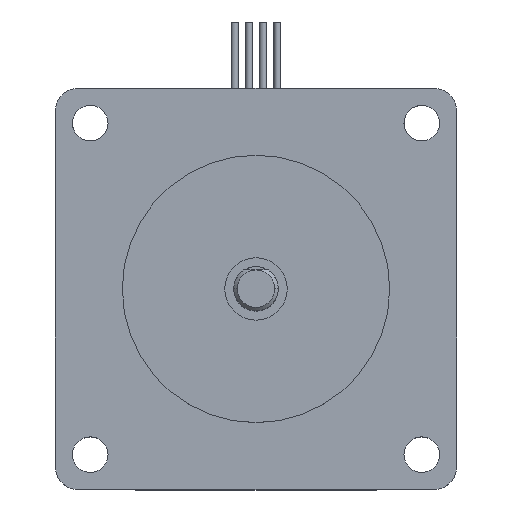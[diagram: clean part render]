
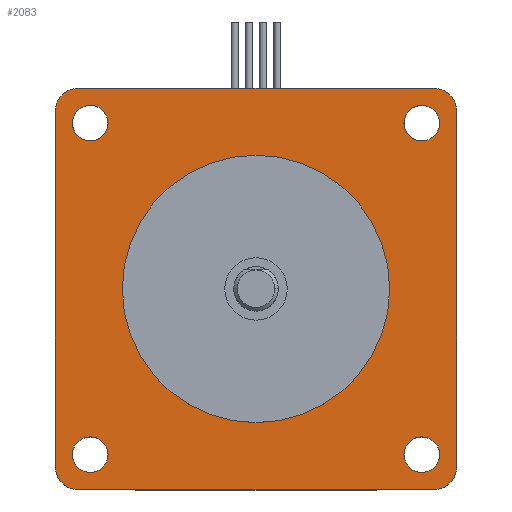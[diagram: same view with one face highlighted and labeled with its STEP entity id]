
A CAD part, top view. The second image highlights one B-rep face of the part: STEP entity #2083.
In plain terms, the highlighted planar face has unit normal (0, 0, 1).
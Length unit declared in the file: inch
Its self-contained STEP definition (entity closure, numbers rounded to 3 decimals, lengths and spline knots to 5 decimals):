
#99=CARTESIAN_POINT('',(-1.03,0.93,1.73));
#100=VERTEX_POINT('',#99);
#116=CARTESIAN_POINT('',(-0.83,0.93,1.73));
#117=VERTEX_POINT('',#116);
#124=CARTESIAN_POINT('',(-0.93,0.93,1.73));
#125=DIRECTION('',(0.0,0.0,-1.0));
#126=DIRECTION('',(-1.0,0.0,0.0));
#127=AXIS2_PLACEMENT_3D('',#124,#125,#126);
#128=CIRCLE('',#127,0.1);
#129=EDGE_CURVE('',#100,#117,#128,.T.);
#141=CARTESIAN_POINT('',(0.93,1.03,1.73));
#142=VERTEX_POINT('',#141);
#158=CARTESIAN_POINT('',(0.93,0.83,1.73));
#159=VERTEX_POINT('',#158);
#166=CARTESIAN_POINT('',(0.93,0.93,1.73));
#167=DIRECTION('',(0.0,0.0,-1.0));
#168=DIRECTION('',(0.0,1.0,0.0));
#169=AXIS2_PLACEMENT_3D('',#166,#167,#168);
#170=CIRCLE('',#169,0.1);
#171=EDGE_CURVE('',#142,#159,#170,.T.);
#183=CARTESIAN_POINT('',(-0.93,-1.03,1.73));
#184=VERTEX_POINT('',#183);
#200=CARTESIAN_POINT('',(-0.93,-0.83,1.73));
#201=VERTEX_POINT('',#200);
#208=CARTESIAN_POINT('',(-0.93,-0.93,1.73));
#209=DIRECTION('',(0.0,0.0,-1.0));
#210=DIRECTION('',(0.0,-1.0,0.0));
#211=AXIS2_PLACEMENT_3D('',#208,#209,#210);
#212=CIRCLE('',#211,0.1);
#213=EDGE_CURVE('',#184,#201,#212,.T.);
#225=CARTESIAN_POINT('',(1.03,-0.93,1.73));
#226=VERTEX_POINT('',#225);
#242=CARTESIAN_POINT('',(0.83,-0.93,1.73));
#243=VERTEX_POINT('',#242);
#250=CARTESIAN_POINT('',(0.93,-0.93,1.73));
#251=DIRECTION('',(0.0,0.0,-1.0));
#252=DIRECTION('',(1.0,0.0,0.0));
#253=AXIS2_PLACEMENT_3D('',#250,#251,#252);
#254=CIRCLE('',#253,0.1);
#255=EDGE_CURVE('',#226,#243,#254,.T.);
#265=CARTESIAN_POINT('',(-0.75,0.,1.73));
#266=VERTEX_POINT('',#265);
#275=CARTESIAN_POINT('',(0.75,0.,1.73));
#276=VERTEX_POINT('',#275);
#277=CARTESIAN_POINT('',(0.0,0.0,1.73));
#278=DIRECTION('',(0.0,0.0,-1.0));
#279=DIRECTION('',(-1.0,0.0,0.0));
#280=AXIS2_PLACEMENT_3D('',#277,#278,#279);
#281=CIRCLE('',#280,0.75);
#282=EDGE_CURVE('',#276,#266,#281,.T.);
#1358=CARTESIAN_POINT('',(1.0,-1.125,1.73));
#1359=VERTEX_POINT('',#1358);
#1366=CARTESIAN_POINT('',(-1.,-1.125,1.73));
#1367=VERTEX_POINT('',#1366);
#1368=CARTESIAN_POINT('',(-1.,-1.125,1.73));
#1369=DIRECTION('',(1.0,0.0,0.0));
#1370=VECTOR('',#1369,2.);
#1371=LINE('',#1368,#1370);
#1372=EDGE_CURVE('',#1367,#1359,#1371,.T.);
#1397=CARTESIAN_POINT('',(-1.125,-1.,1.73));
#1398=VERTEX_POINT('',#1397);
#1405=CARTESIAN_POINT('',(-1.125,1.0,1.73));
#1406=VERTEX_POINT('',#1405);
#1407=CARTESIAN_POINT('',(-1.125,1.0,1.73));
#1408=DIRECTION('',(0.0,-1.0,0.0));
#1409=VECTOR('',#1408,2.);
#1410=LINE('',#1407,#1409);
#1411=EDGE_CURVE('',#1406,#1398,#1410,.T.);
#1839=CARTESIAN_POINT('',(-1.,1.125,1.73));
#1840=VERTEX_POINT('',#1839);
#1841=CARTESIAN_POINT('',(-1.,1.0,1.73));
#1842=DIRECTION('',(0.0,0.0,1.0));
#1843=DIRECTION('',(0.0,1.0,0.0));
#1844=AXIS2_PLACEMENT_3D('',#1841,#1842,#1843);
#1845=CIRCLE('',#1844,0.125);
#1846=EDGE_CURVE('',#1840,#1406,#1845,.T.);
#1864=CARTESIAN_POINT('',(-1.,-1.,1.73));
#1865=DIRECTION('',(0.0,0.0,1.0));
#1866=DIRECTION('',(-1.0,0.0,0.0));
#1867=AXIS2_PLACEMENT_3D('',#1864,#1865,#1866);
#1868=CIRCLE('',#1867,0.125);
#1869=EDGE_CURVE('',#1398,#1367,#1868,.T.);
#1890=CARTESIAN_POINT('',(1.0,1.125,1.73));
#1891=VERTEX_POINT('',#1890);
#1892=CARTESIAN_POINT('',(1.0,1.125,1.73));
#1893=DIRECTION('',(-1.0,0.0,0.0));
#1894=VECTOR('',#1893,2.0);
#1895=LINE('',#1892,#1894);
#1896=EDGE_CURVE('',#1891,#1840,#1895,.T.);
#1930=CARTESIAN_POINT('',(1.125,-1.,1.73));
#1931=VERTEX_POINT('',#1930);
#1938=CARTESIAN_POINT('',(1.0,-1.,1.73));
#1939=DIRECTION('',(0.0,0.0,1.0));
#1940=DIRECTION('',(0.0,-1.0,0.0));
#1941=AXIS2_PLACEMENT_3D('',#1938,#1939,#1940);
#1942=CIRCLE('',#1941,0.125);
#1943=EDGE_CURVE('',#1359,#1931,#1942,.T.);
#1987=CARTESIAN_POINT('',(0.0,0.0,1.73));
#1988=DIRECTION('',(0.0,0.0,-1.0));
#1989=DIRECTION('',(-1.0,0.0,0.0));
#1990=AXIS2_PLACEMENT_3D('',#1987,#1988,#1989);
#1991=CIRCLE('',#1990,0.75);
#1992=EDGE_CURVE('',#266,#276,#1991,.T.);
#2011=CARTESIAN_POINT('',(0.0,0.0,1.73));
#2012=DIRECTION('',(0.0,0.0,1.0));
#2013=DIRECTION('',(1.0,0.0,0.0));
#2014=AXIS2_PLACEMENT_3D('',#2011,#2012,#2013);
#2015=PLANE('',#2014);
#2016=ORIENTED_EDGE('',*,*,#1846,.T.);
#2017=ORIENTED_EDGE('',*,*,#1411,.T.);
#2018=ORIENTED_EDGE('',*,*,#1869,.T.);
#2019=ORIENTED_EDGE('',*,*,#1372,.T.);
#2020=ORIENTED_EDGE('',*,*,#1943,.T.);
#2021=CARTESIAN_POINT('',(1.125,1.0,1.73));
#2022=VERTEX_POINT('',#2021);
#2023=CARTESIAN_POINT('',(1.125,-1.,1.73));
#2024=DIRECTION('',(0.0,1.0,0.0));
#2025=VECTOR('',#2024,2.);
#2026=LINE('',#2023,#2025);
#2027=EDGE_CURVE('',#1931,#2022,#2026,.T.);
#2028=ORIENTED_EDGE('',*,*,#2027,.T.);
#2029=CARTESIAN_POINT('',(1.0,1.0,1.73));
#2030=DIRECTION('',(0.0,0.0,1.0));
#2031=DIRECTION('',(1.0,0.0,0.0));
#2032=AXIS2_PLACEMENT_3D('',#2029,#2030,#2031);
#2033=CIRCLE('',#2032,0.125);
#2034=EDGE_CURVE('',#2022,#1891,#2033,.T.);
#2035=ORIENTED_EDGE('',*,*,#2034,.T.);
#2036=ORIENTED_EDGE('',*,*,#1896,.T.);
#2037=EDGE_LOOP('',(#2016,#2017,#2018,#2019,#2020,#2028,#2035,#2036));
#2038=FACE_OUTER_BOUND('',#2037,.T.);
#2039=CARTESIAN_POINT('',(-0.93,0.93,1.73));
#2040=DIRECTION('',(0.0,0.0,-1.0));
#2041=DIRECTION('',(-1.0,0.0,0.0));
#2042=AXIS2_PLACEMENT_3D('',#2039,#2040,#2041);
#2043=CIRCLE('',#2042,0.1);
#2044=EDGE_CURVE('',#117,#100,#2043,.T.);
#2045=ORIENTED_EDGE('',*,*,#2044,.T.);
#2046=ORIENTED_EDGE('',*,*,#129,.T.);
#2047=EDGE_LOOP('',(#2045,#2046));
#2048=FACE_BOUND('',#2047,.T.);
#2049=CARTESIAN_POINT('',(0.93,0.93,1.73));
#2050=DIRECTION('',(0.0,0.0,-1.0));
#2051=DIRECTION('',(0.0,1.0,0.0));
#2052=AXIS2_PLACEMENT_3D('',#2049,#2050,#2051);
#2053=CIRCLE('',#2052,0.1);
#2054=EDGE_CURVE('',#159,#142,#2053,.T.);
#2055=ORIENTED_EDGE('',*,*,#2054,.T.);
#2056=ORIENTED_EDGE('',*,*,#171,.T.);
#2057=EDGE_LOOP('',(#2055,#2056));
#2058=FACE_BOUND('',#2057,.T.);
#2059=CARTESIAN_POINT('',(-0.93,-0.93,1.73));
#2060=DIRECTION('',(0.0,0.0,-1.0));
#2061=DIRECTION('',(0.0,-1.0,0.0));
#2062=AXIS2_PLACEMENT_3D('',#2059,#2060,#2061);
#2063=CIRCLE('',#2062,0.1);
#2064=EDGE_CURVE('',#201,#184,#2063,.T.);
#2065=ORIENTED_EDGE('',*,*,#2064,.T.);
#2066=ORIENTED_EDGE('',*,*,#213,.T.);
#2067=EDGE_LOOP('',(#2065,#2066));
#2068=FACE_BOUND('',#2067,.T.);
#2069=CARTESIAN_POINT('',(0.93,-0.93,1.73));
#2070=DIRECTION('',(0.0,0.0,-1.0));
#2071=DIRECTION('',(1.0,0.0,0.0));
#2072=AXIS2_PLACEMENT_3D('',#2069,#2070,#2071);
#2073=CIRCLE('',#2072,0.1);
#2074=EDGE_CURVE('',#243,#226,#2073,.T.);
#2075=ORIENTED_EDGE('',*,*,#2074,.T.);
#2076=ORIENTED_EDGE('',*,*,#255,.T.);
#2077=EDGE_LOOP('',(#2075,#2076));
#2078=FACE_BOUND('',#2077,.T.);
#2079=ORIENTED_EDGE('',*,*,#282,.T.);
#2080=ORIENTED_EDGE('',*,*,#1992,.T.);
#2081=EDGE_LOOP('',(#2079,#2080));
#2082=FACE_BOUND('',#2081,.T.);
#2083=ADVANCED_FACE('',(#2038,#2048,#2058,#2068,#2078,#2082),#2015,.T.);
